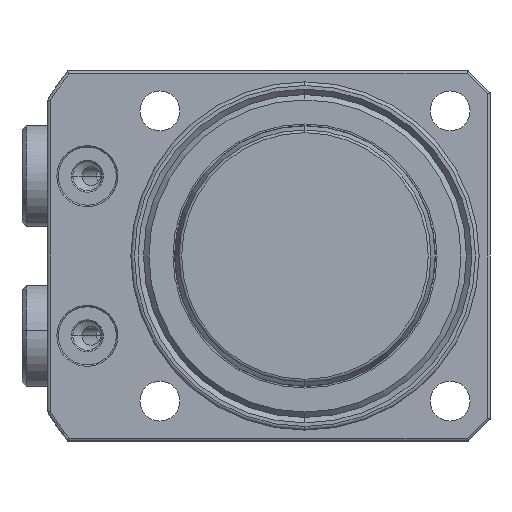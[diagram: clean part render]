
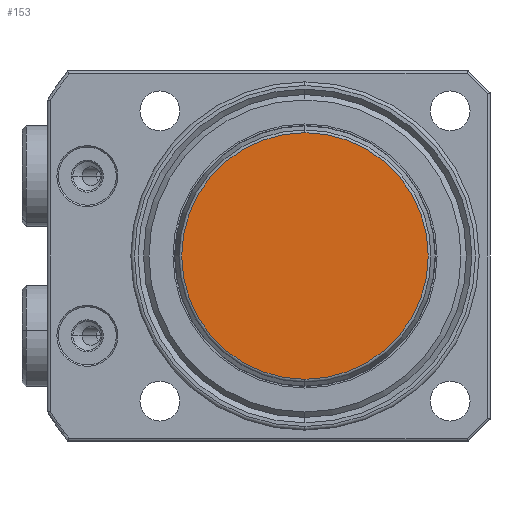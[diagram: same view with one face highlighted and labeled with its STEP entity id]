
A CAD part, front view. The second image highlights one B-rep face of the part: STEP entity #153.
In plain terms, the highlighted planar face has unit normal (0, -1, 0).
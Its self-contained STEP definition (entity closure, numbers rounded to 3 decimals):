
#153 = ADVANCED_FACE ( 'NONE', ( #4003 ), #5496, .F. ) ;
#273 = DIRECTION ( 'NONE',  ( 0., 0., 1. ) ) ;
#341 = ORIENTED_EDGE ( 'NONE', *, *, #3747, .T. ) ;
#1585 = EDGE_CURVE ( 'NONE', #3229, #3986, #3606, .T. ) ;
#1872 = DIRECTION ( 'NONE',  ( 0., -1., 0. ) ) ;
#2108 = DIRECTION ( 'NONE',  ( 0., -1., 0. ) ) ;
#2231 = EDGE_LOOP ( 'NONE', ( #2283, #341 ) ) ;
#2283 = ORIENTED_EDGE ( 'NONE', *, *, #1585, .T. ) ;
#2331 = CARTESIAN_POINT ( 'NONE',  ( 0., -2., 16.992 ) ) ;
#2865 = DIRECTION ( 'NONE',  ( 0., 1., 0. ) ) ;
#3172 = AXIS2_PLACEMENT_3D ( 'NONE', #4711, #2108, #5163 ) ;
#3229 = VERTEX_POINT ( 'NONE', #2331 ) ;
#3471 = CARTESIAN_POINT ( 'NONE',  ( 0., -2., -16.992 ) ) ;
#3606 = CIRCLE ( 'NONE', #3172, 16.992 ) ;
#3747 = EDGE_CURVE ( 'NONE', #3986, #3229, #4393, .T. ) ;
#3986 = VERTEX_POINT ( 'NONE', #3471 ) ;
#4003 = FACE_OUTER_BOUND ( 'NONE', #2231, .T. ) ;
#4393 = CIRCLE ( 'NONE', #5224, 16.992 ) ;
#4473 = CARTESIAN_POINT ( 'NONE',  ( 0., -2., 0. ) ) ;
#4605 = CARTESIAN_POINT ( 'NONE',  ( 17.272, -2., 0. ) ) ;
#4711 = CARTESIAN_POINT ( 'NONE',  ( 0., -2., 0. ) ) ;
#4861 = AXIS2_PLACEMENT_3D ( 'NONE', #4605, #2865, #273 ) ;
#4929 = DIRECTION ( 'NONE',  ( 0., 0., 1. ) ) ;
#5163 = DIRECTION ( 'NONE',  ( 0., 0., 1. ) ) ;
#5224 = AXIS2_PLACEMENT_3D ( 'NONE', #4473, #1872, #4929 ) ;
#5496 = PLANE ( 'NONE',  #4861 ) ;
